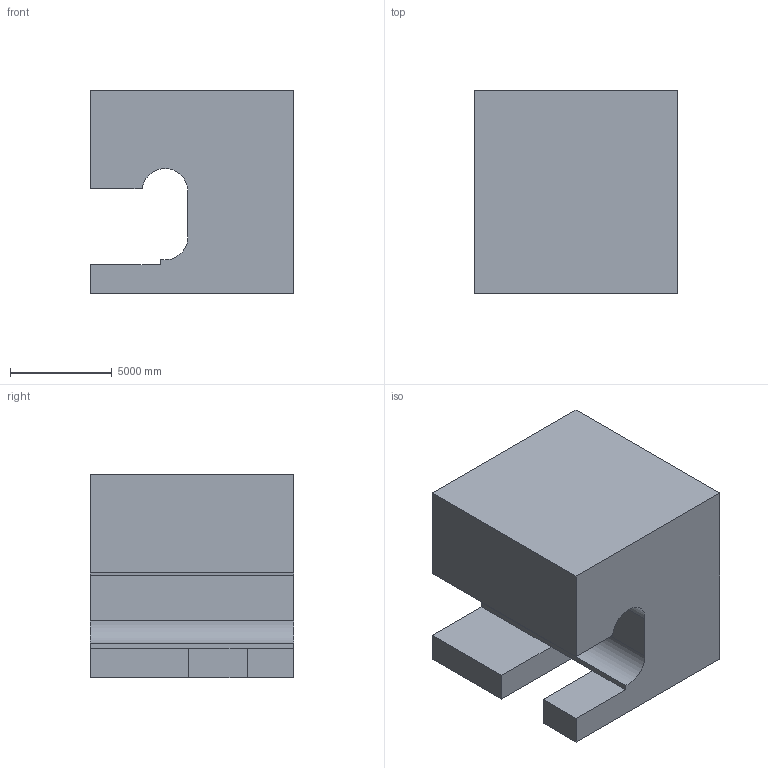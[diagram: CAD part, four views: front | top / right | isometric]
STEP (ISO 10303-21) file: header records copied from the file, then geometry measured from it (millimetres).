
FILE_DESCRIPTION (( 'STEP AP203' ), '1' );
FILE_NAME ('250.STEP', '2022-09-07T12:26:50', ( 'user' ), ( '' ), 'SwSTEP 2.0', 'SolidWorks 2021', '' );
FILE_SCHEMA (( 'CONFIG_CONTROL_DESIGN' ));
Length unit declared in the file: centimetre
Products named in the file (1): 250
Bounding box: 10000 x 10000 x 10000 mm (x, y, z)
Volume: 786500065862 mm3; surface area: 660277806.4 mm2
Topology: 1 solids, 1 shells, 20 faces, 52 edges, 34 vertices
Faces by surface type: plane 17, cylinder 3
Entity records: 683 total; most frequent: CARTESIAN_POINT 107, ORIENTED_EDGE 104, DIRECTION 100, EDGE_CURVE 52, VECTOR 46, LINE 46, VERTEX_POINT 34, AXIS2_PLACEMENT_3D 27
